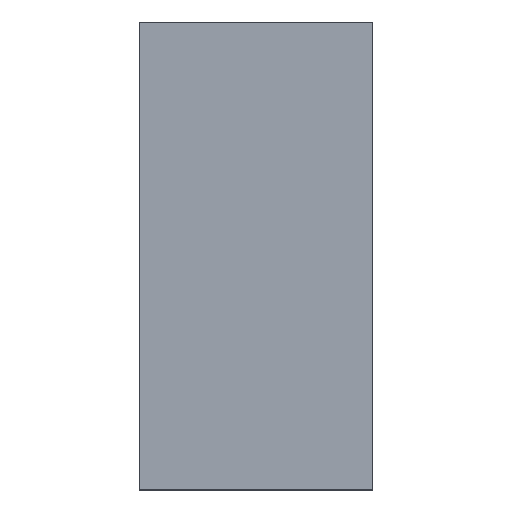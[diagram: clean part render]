
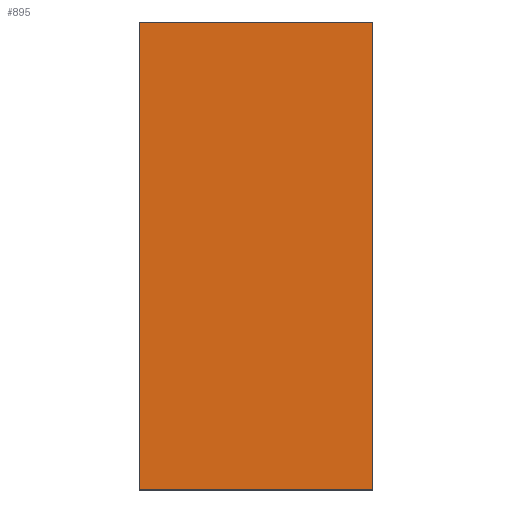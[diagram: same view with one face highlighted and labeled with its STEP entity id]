
A CAD part, top view. The second image highlights one B-rep face of the part: STEP entity #895.
In plain terms, the highlighted planar face has unit normal (0, 0, 1).
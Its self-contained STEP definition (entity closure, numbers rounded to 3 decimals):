
#33 = VERTEX_POINT ( 'NONE', #706 ) ;
#55 = VERTEX_POINT ( 'NONE', #640 ) ;
#89 = VECTOR ( 'NONE', #124, 1000. ) ;
#104 = AXIS2_PLACEMENT_3D ( 'NONE', #235, #191, #188 ) ;
#124 = DIRECTION ( 'NONE',  ( 1., 0., 0. ) ) ;
#174 = EDGE_LOOP ( 'NONE', ( #843, #856, #900, #454 ) ) ;
#175 = LINE ( 'NONE', #177, #89 ) ;
#177 = CARTESIAN_POINT ( 'NONE',  ( -290., -580., 25. ) ) ;
#188 = DIRECTION ( 'NONE',  ( 1., 0., 0. ) ) ;
#190 = VERTEX_POINT ( 'NONE', #359 ) ;
#191 = DIRECTION ( 'NONE',  ( 0., 0., 1. ) ) ;
#208 = PLANE ( 'NONE',  #104 ) ;
#229 = VECTOR ( 'NONE', #430, 1000. ) ;
#235 = CARTESIAN_POINT ( 'NONE',  ( 0., 0., 25. ) ) ;
#238 = LINE ( 'NONE', #424, #229 ) ;
#359 = CARTESIAN_POINT ( 'NONE',  ( -290., -580., 25. ) ) ;
#393 = EDGE_CURVE ( 'NONE', #681, #190, #763, .T. ) ;
#403 = DIRECTION ( 'NONE',  ( 0., 1., 0. ) ) ;
#415 = LINE ( 'NONE', #469, #446 ) ;
#424 = CARTESIAN_POINT ( 'NONE',  ( -290., 580., 25. ) ) ;
#430 = DIRECTION ( 'NONE',  ( -1., 0., 0. ) ) ;
#446 = VECTOR ( 'NONE', #403, 1000. ) ;
#449 = EDGE_CURVE ( 'NONE', #33, #55, #415, .T. ) ;
#454 = ORIENTED_EDGE ( 'NONE', *, *, #846, .T. ) ;
#469 = CARTESIAN_POINT ( 'NONE',  ( 290., 580., 25. ) ) ;
#537 = DIRECTION ( 'NONE',  ( 0., -1., 0. ) ) ;
#545 = EDGE_CURVE ( 'NONE', #190, #33, #175, .T. ) ;
#569 = CARTESIAN_POINT ( 'NONE',  ( -290., 580., 25. ) ) ;
#640 = CARTESIAN_POINT ( 'NONE',  ( 290., 580., 25. ) ) ;
#681 = VERTEX_POINT ( 'NONE', #891 ) ;
#701 = VECTOR ( 'NONE', #537, 1000. ) ;
#706 = CARTESIAN_POINT ( 'NONE',  ( 290., -580., 25. ) ) ;
#763 = LINE ( 'NONE', #569, #701 ) ;
#843 = ORIENTED_EDGE ( 'NONE', *, *, #393, .T. ) ;
#846 = EDGE_CURVE ( 'NONE', #55, #681, #238, .T. ) ;
#856 = ORIENTED_EDGE ( 'NONE', *, *, #545, .T. ) ;
#891 = CARTESIAN_POINT ( 'NONE',  ( -290., 580., 25. ) ) ;
#895 = ADVANCED_FACE ( 'NONE', ( #907 ), #208, .T. ) ;
#900 = ORIENTED_EDGE ( 'NONE', *, *, #449, .T. ) ;
#907 = FACE_OUTER_BOUND ( 'NONE', #174, .T. ) ;
